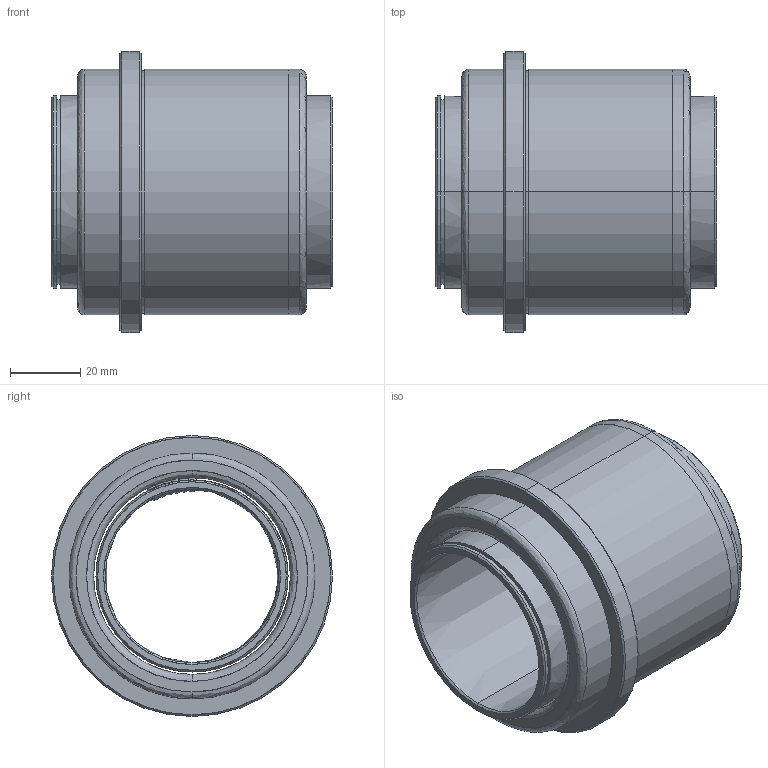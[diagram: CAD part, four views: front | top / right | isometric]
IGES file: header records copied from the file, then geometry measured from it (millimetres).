
Start section: START RECORD GO HERE.
Global section: file name: 732-48.igs; native system: DASSAULT SYSTEMES CATIA V5 R20 - www.3ds.com; preprocessor: CATIA Version 5 Release 20 ; author: Utente; organization: NB04-ASUS; date: 20210110.201956; units: millimetre
Bounding box: 80 x 80 x 80 mm (x, y, z)
Surface area: 57597.9 mm2 (no closed solid volume)
Topology: 0 solids, 0 shells, 74 faces, 474 edges, 474 vertices
Faces by surface type: revolution 64, plane 10
